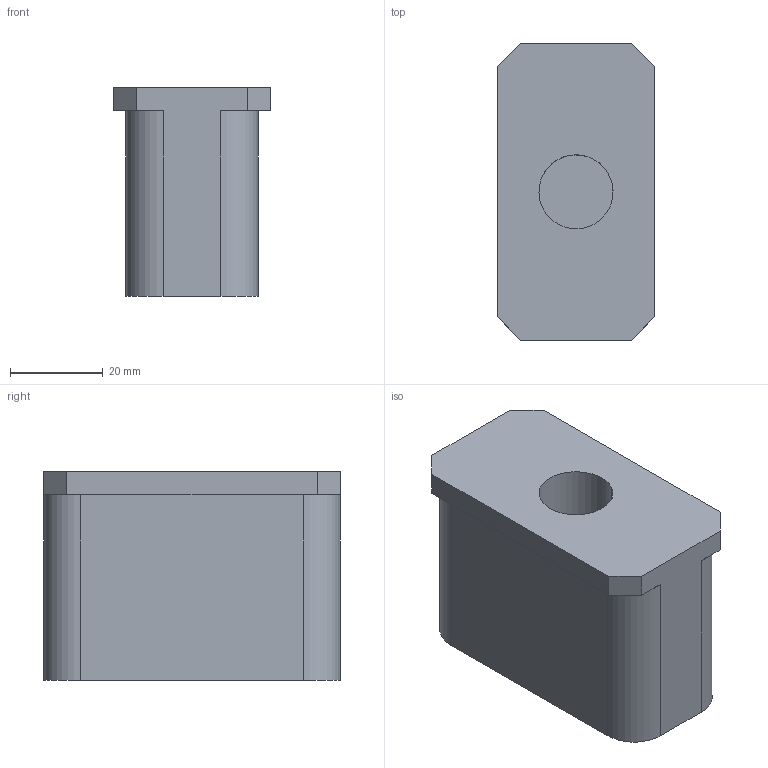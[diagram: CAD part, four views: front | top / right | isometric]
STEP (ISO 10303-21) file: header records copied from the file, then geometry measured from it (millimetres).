
FILE_DESCRIPTION(('CATIA V5 STEP Exchange','CAx-IF Rec.Pracs.--- Model Styling and Organization---1.5--- 2016-08-15','CAx-IF Rec.Pracs.---Supplemental Geometry---1.0---2011-11-01','CAx-IF Rec.Pracs.--- Composite Materials ---1.1---2010-07-15','CAx-IF Rec.Pracs.---External References---2.1---2005-01-19'),'2;1');
FILE_NAME('E:\WAT\Sprezarka\121_00_00_Tlocznik1\Tlocznik1_KPL\Tlocznik1_stp\121_01_03_Podnosnik.stp','2023-08-01T08:49:43+00:00',('none'),('none'),'CATIA Version 5-6 Release 2022 SP3','CATIA V5 STEP AP214 v2','none');
FILE_SCHEMA(('AUTOMOTIVE_DESIGN { 1 0 10303 214 1 1 1 1 }'));
Length unit declared in the file: millimetre
Products named in the file (1): 121_01_03_Podnosnik
Bounding box: 34 x 64 x 45 mm (x, y, z)
Volume: 76391.2 mm3; surface area: 13459.9 mm2
Topology: 1 solids, 1 shells, 33 faces, 84 edges, 51 vertices
Faces by surface type: plane 15, cylinder 12, cone 6
Entity records: 963 total; most frequent: ORIENTED_EDGE 156, CARTESIAN_POINT 155, DIRECTION 128, EDGE_CURVE 78, VECTOR 54, LINE 54, VERTEX_POINT 51, AXIS2_PLACEMENT_3D 50
